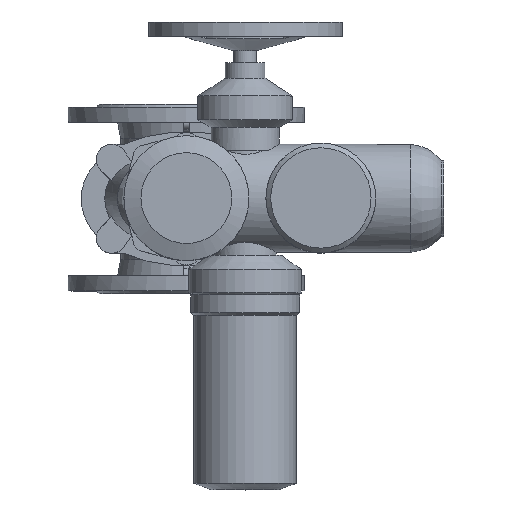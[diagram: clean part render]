
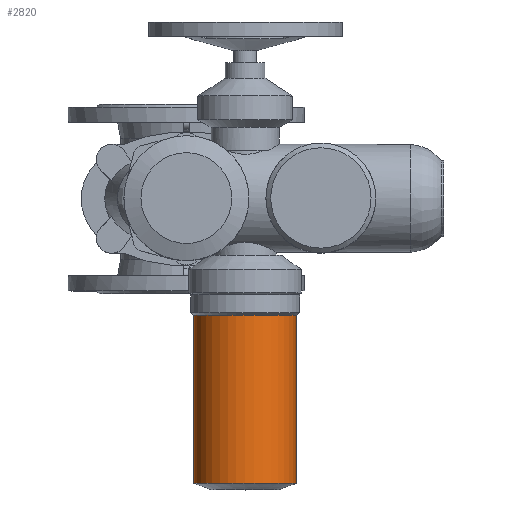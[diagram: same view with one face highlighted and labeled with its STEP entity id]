
A CAD part, top view. The second image highlights one B-rep face of the part: STEP entity #2820.
In plain terms, the highlighted cylindrical face has radius 54 mm (diameter 108 mm), a full revolution.
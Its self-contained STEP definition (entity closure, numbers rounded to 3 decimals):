
#2820=ADVANCED_FACE('',(#6204,#6206),#6208,.T.);
#6204=FACE_OUTER_BOUND('',#6205,.T.);
#6205=EDGE_LOOP('',(#7968));
#6206=FACE_OUTER_BOUND('',#6207,.T.);
#6207=EDGE_LOOP('',(#7969));
#6208=CYLINDRICAL_SURFACE('',#6209,54.);
#6209=AXIS2_PLACEMENT_3D('',#6210,#6211,#6212);
#6210=CARTESIAN_POINT('',(62.,-301.085,489.));
#6211=DIRECTION('',(0.,1.,0.));
#6212=DIRECTION('',(0.,0.,1.));
#7968=ORIENTED_EDGE('',*,*,#8866,.F.);
#7969=ORIENTED_EDGE('',*,*,#8870,.T.);
#8866=EDGE_CURVE('',#10255,#10255,#10256,.T.);
#8870=EDGE_CURVE('',#10263,#10263,#10264,.T.);
#10255=VERTEX_POINT('',#17173);
#10256=CIRCLE('',#17174,54.);
#10263=VERTEX_POINT('',#17193);
#10264=CIRCLE('',#17194,54.);
#17173=CARTESIAN_POINT('',(62.,-123.505,543.));
#17174=AXIS2_PLACEMENT_3D('',#17175,#17176,#17177);
#17175=CARTESIAN_POINT('',(62.,-123.505,489.));
#17176=DIRECTION('',(0.,1.,0.));
#17177=DIRECTION('',(0.,0.,1.));
#17193=CARTESIAN_POINT('',(62.,-301.085,543.));
#17194=AXIS2_PLACEMENT_3D('',#17195,#17196,#17197);
#17195=CARTESIAN_POINT('',(62.,-301.085,489.));
#17196=DIRECTION('',(0.,1.,0.));
#17197=DIRECTION('',(0.,0.,1.));
